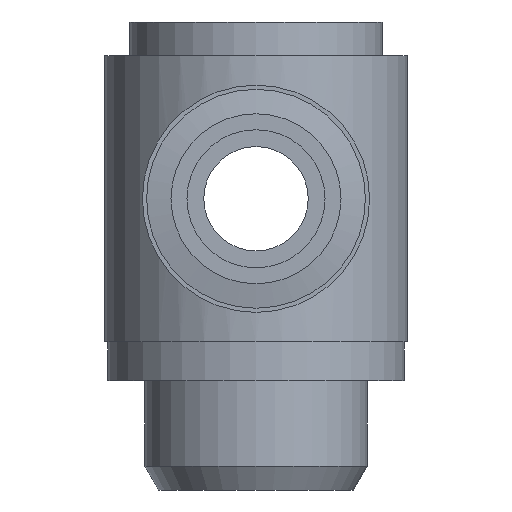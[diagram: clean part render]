
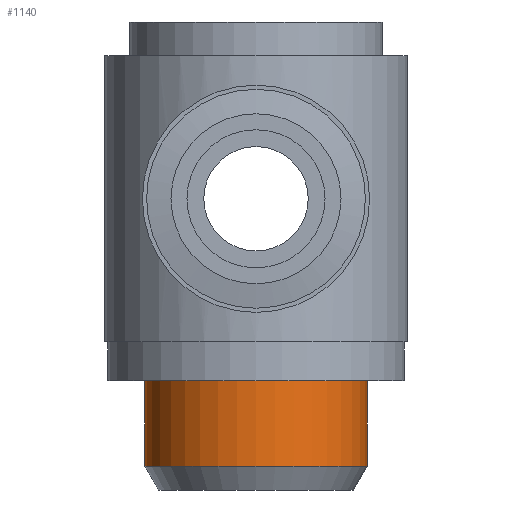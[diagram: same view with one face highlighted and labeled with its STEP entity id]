
A CAD part, front view. The second image highlights one B-rep face of the part: STEP entity #1140.
In plain terms, the highlighted cylindrical face has radius 6.6 mm (diameter 13.2 mm), a full revolution.
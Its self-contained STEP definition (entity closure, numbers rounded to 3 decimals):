
#1100=CARTESIAN_POINT('',(0.,-6.6,-15.9));
#1101=VERTEX_POINT('',#1100);
#1102=CARTESIAN_POINT('',(0.0,0.0,-15.9));
#1103=DIRECTION('',(0.0,0.0,-1.0));
#1104=DIRECTION('',(0.0,1.0,0.0));
#1105=AXIS2_PLACEMENT_3D('',#1102,#1103,#1104);
#1106=CIRCLE('',#1105,6.6);
#1107=EDGE_CURVE('',#1101,#1101,#1106,.T.);
#1121=CARTESIAN_POINT('',(0.0,0.0,-14.05));
#1122=DIRECTION('',(0.0,0.0,1.0));
#1123=DIRECTION('',(0.0,-1.0,0.0));
#1124=AXIS2_PLACEMENT_3D('',#1121,#1122,#1123);
#1125=CYLINDRICAL_SURFACE('',#1124,6.6);
#1126=CARTESIAN_POINT('',(0.0,-6.6,-10.8));
#1127=VERTEX_POINT('',#1126);
#1128=CARTESIAN_POINT('',(0.0,0.0,-10.8));
#1129=DIRECTION('',(0.0,0.0,1.0));
#1130=DIRECTION('',(0.0,-1.0,0.0));
#1131=AXIS2_PLACEMENT_3D('',#1128,#1129,#1130);
#1132=CIRCLE('',#1131,6.6);
#1133=EDGE_CURVE('',#1127,#1127,#1132,.T.);
#1134=ORIENTED_EDGE('',*,*,#1133,.F.);
#1135=EDGE_LOOP('',(#1134));
#1136=FACE_OUTER_BOUND('',#1135,.T.);
#1137=ORIENTED_EDGE('',*,*,#1107,.F.);
#1138=EDGE_LOOP('',(#1137));
#1139=FACE_BOUND('',#1138,.T.);
#1140=ADVANCED_FACE('',(#1136,#1139),#1125,.T.);
